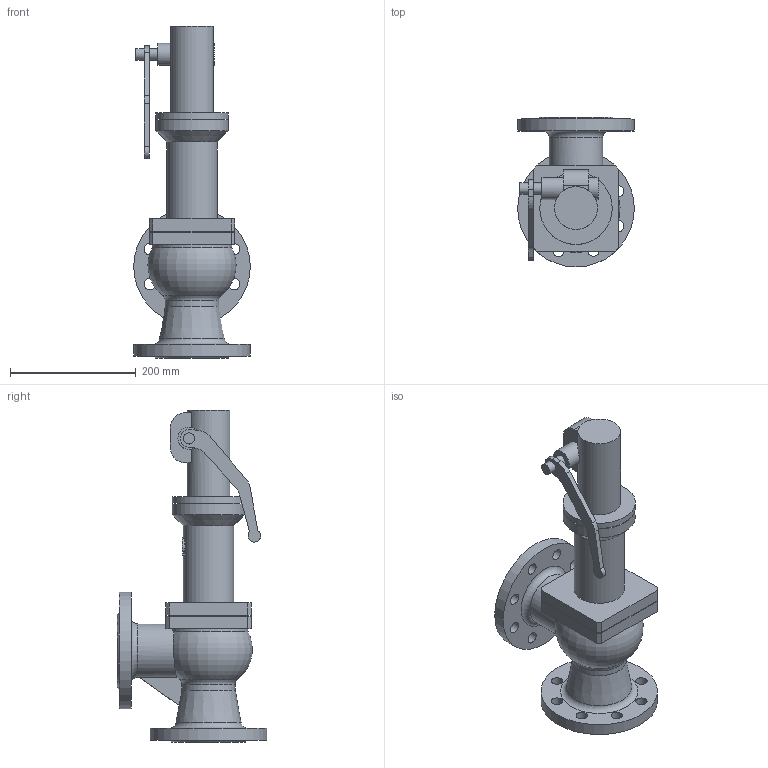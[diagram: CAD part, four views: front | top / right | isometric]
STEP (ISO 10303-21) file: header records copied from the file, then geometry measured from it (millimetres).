
FILE_DESCRIPTION(('STEP AP203'), '1');
FILE_NAME('Êëàïàí ïðåäîõðàíèòåëüíûé ñðåäíåïîäüåìíûé SV1F 65x65', '', ('UNSPECIFIED'), ('UNSPECIFIED'), 'ASCON STEP Converter 1.6', 'ASCON Math Kernel', '');
FILE_SCHEMA(('CONFIG_CONTROL_DESIGN'));
Length unit declared in the file: millimetre
Bounding box: 185 x 237.5 x 527 mm (x, y, z)
Volume: 3836893.5 mm3; surface area: 492991.5 mm2
Topology: 1 solids, 3 shells, 130 faces, 320 edges, 212 vertices
Faces by surface type: plane 68, cylinder 53, torus 5, cone 4
Full cylindrical faces by diameter (mm): 18 x18, 35 x2, 52 x1, 60 x1, 65 x3, 68 x1, 80 x1, 85 x1, 95 x1, 113 x1, 115 x2, 185 x2
Entity records: 6245 total; most frequent: CARTESIAN_POINT 2151, DIRECTION 618, ORIENTED_EDGE 552, EDGE_CURVE 276, AXIS2_PLACEMENT_3D 246, EDGE_LOOP 222, VERTEX_POINT 212, FACE_BOUND 148
